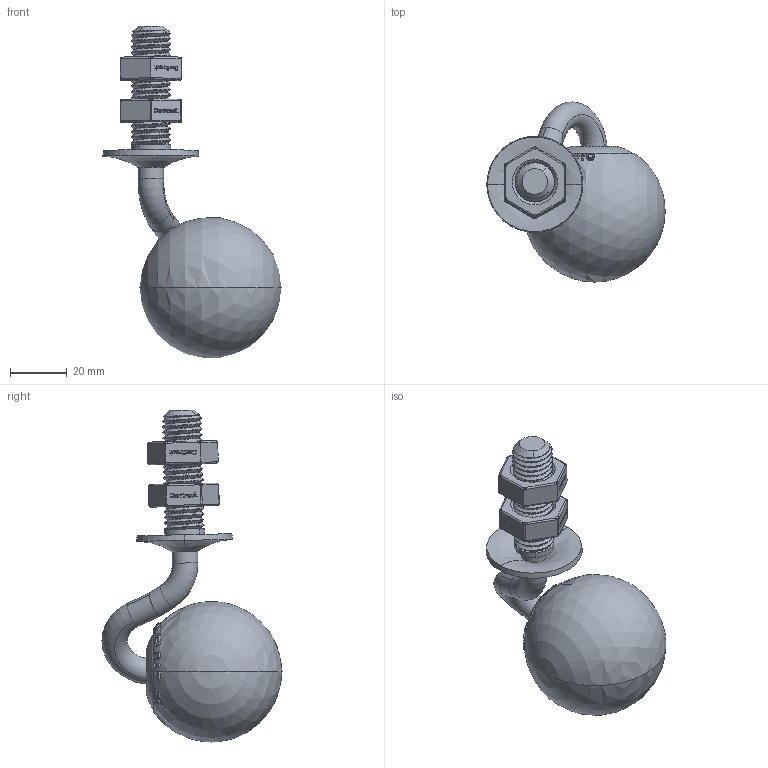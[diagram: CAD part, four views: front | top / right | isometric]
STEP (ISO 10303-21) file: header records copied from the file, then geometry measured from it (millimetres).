
FILE_DESCRIPTION((''),'2;1');
FILE_NAME('OMNIFLOAT50-100_ASM','2015-08-20T',('David'),(''),'PRO/ENGINEER BY PARAMETRIC TECHNOLOGY CORPORATION, 2013320','PRO/ENGINEER BY PARAMETRIC TECHNOLOGY CORPORATION, 2013320','');
FILE_SCHEMA(('CONFIG_CONTROL_DESIGN'));
Products named in the file (9): OMNIFLOATBALL50; OMNIFLOATCAP50; OMNIFLOATTUBE50A; OMNIFLOATTUBE50B; ASMOMNIFLOATTUBE50_ASM; OMNIFLOATRUBBER50; OMNIFLOATBOLT50; OMNIFLOATNUT50; OMNIFLOAT50-100_ASM
Assembly tree (9 placements, depth 3):
  OMNIFLOAT50-100_ASM
    OMNIFLOATBALL50
    OMNIFLOATCAP50
    ASMOMNIFLOATTUBE50_ASM
      OMNIFLOATTUBE50A
      OMNIFLOATTUBE50B
    OMNIFLOATRUBBER50
    OMNIFLOATBOLT50
    OMNIFLOATNUT50  x2
Bounding box: 63.09 x 63.71 x 117.37 mm (x, y, z)
Volume: 80781.7 mm3; surface area: 21528.2 mm2
Topology: 8 solids, 8 shells, 2018 faces, 5639 edges, 3710 vertices
Faces by surface type: plane 1801, bspline 88, cylinder 54, sphere 31, torus 30, cone 14
Entity records: 55099 total; most frequent: CARTESIAN_POINT 24592, ORIENTED_EDGE 6560, DIRECTION 5994, EDGE_CURVE 3280, VECTOR 2602, LINE 2602, VERTEX_POINT 2156, AXIS2_PLACEMENT_3D 1696
